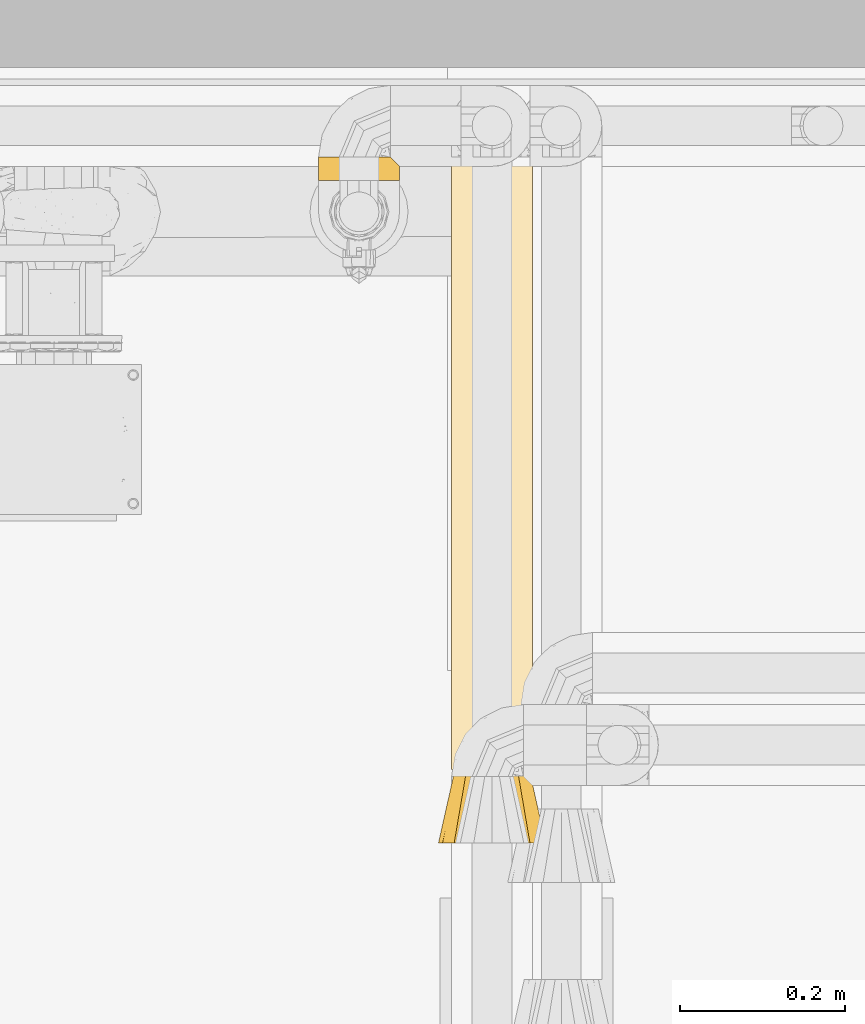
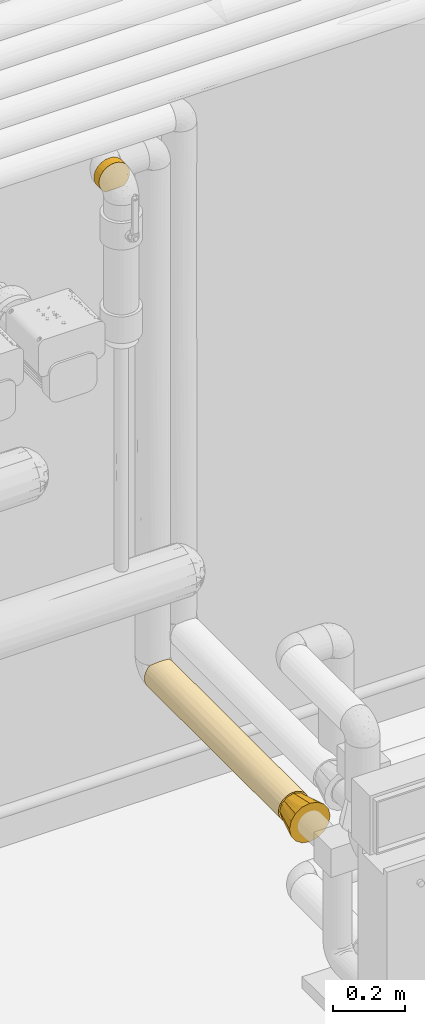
# One storey, part 27 of 94: 3 coverings.
"""IFC2X3 building model written with IfcOpenShell, lengths in millimetres."""

from ifc_helpers import new_model, entity, si_unit, converted_unit, derived_unit, direction, frame, origin, place, context, subcontext, project, spatial, faceted_brep, material, element, save


model = new_model("IFC2X3")

# Units and contexts
model_context = context("Model", 3, precision=0.01, world=origin(), true_north=direction((6.123031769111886e-17, 1.0)))
body_context = subcontext(model_context, "Body", "Model", "MODEL_VIEW")
ifc_project = project(units=[si_unit("LENGTHUNIT", "METRE", prefix="MILLI"), si_unit("AREAUNIT", "SQUARE_METRE"), si_unit("VOLUMEUNIT", "CUBIC_METRE"), converted_unit("PLANEANGLEUNIT", "DEGREE", entity("IfcRatioMeasure", 0.017453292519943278), si_unit("PLANEANGLEUNIT", "RADIAN"), dimensions=[0, 0, 0, 0, 0, 0, 0]), si_unit("MASSUNIT", "GRAM", prefix="KILO"), derived_unit("MASSDENSITYUNIT", [(si_unit("MASSUNIT", "GRAM", prefix="KILO"), 1), (si_unit("LENGTHUNIT", "METRE"), -3)]), derived_unit("IONCONCENTRATIONUNIT", [(si_unit("MASSUNIT", "GRAM", prefix="KILO"), 1), (si_unit("LENGTHUNIT", "METRE"), -3)]), derived_unit("MOMENTOFINERTIAUNIT", [(si_unit("LENGTHUNIT", "METRE"), 4)]), si_unit("TIMEUNIT", "SECOND"), si_unit("FREQUENCYUNIT", "HERTZ"), si_unit("THERMODYNAMICTEMPERATUREUNIT", "DEGREE_CELSIUS"), derived_unit("THERMALTRANSMITTANCEUNIT", [(si_unit("MASSUNIT", "GRAM", prefix="KILO"), 1), (si_unit("THERMODYNAMICTEMPERATUREUNIT", "KELVIN"), -1), (si_unit("TIMEUNIT", "SECOND"), -3)]), derived_unit("THERMALCONDUCTANCEUNIT", [(si_unit("MASSUNIT", "GRAM", prefix="KILO"), 1), (si_unit("THERMODYNAMICTEMPERATUREUNIT", "KELVIN"), -1), (si_unit("TIMEUNIT", "SECOND"), -3), (si_unit("LENGTHUNIT", "METRE"), 1)]), derived_unit("VOLUMETRICFLOWRATEUNIT", [(si_unit("LENGTHUNIT", "METRE"), 3), (si_unit("TIMEUNIT", "SECOND"), -1)]), derived_unit("MASSFLOWRATEUNIT", [(si_unit("MASSUNIT", "GRAM", prefix="KILO"), 1), (si_unit("TIMEUNIT", "SECOND"), -1)]), derived_unit("ROTATIONALFREQUENCYUNIT", [(si_unit("TIMEUNIT", "SECOND"), -1)]), si_unit("ELECTRICCURRENTUNIT", "AMPERE"), si_unit("ELECTRICVOLTAGEUNIT", "VOLT"), si_unit("POWERUNIT", "WATT"), si_unit("FORCEUNIT", "NEWTON", prefix="KILO"), si_unit("ILLUMINANCEUNIT", "LUX"), si_unit("LUMINOUSFLUXUNIT", "LUMEN"), si_unit("LUMINOUSINTENSITYUNIT", "CANDELA"), derived_unit("USERDEFINED", [(si_unit("MASSUNIT", "GRAM", prefix="KILO"), -1), (si_unit("LENGTHUNIT", "METRE"), -2), (si_unit("TIMEUNIT", "SECOND"), 3), (si_unit("LUMINOUSFLUXUNIT", "LUMEN"), 1)]), derived_unit("USERDEFINED", [(si_unit("MASSUNIT", "GRAM", prefix="KILO"), 1), (si_unit("TIMEUNIT", "SECOND"), -3), (si_unit("LENGTHUNIT", "METRE"), 3), (si_unit("ELECTRICCURRENTUNIT", "AMPERE"), -2)]), derived_unit("SOUNDPOWERUNIT", [(si_unit("MASSUNIT", "GRAM", prefix="KILO"), 1), (si_unit("TIMEUNIT", "SECOND"), -3), (si_unit("LENGTHUNIT", "METRE"), 2)]), derived_unit("SOUNDPRESSUREUNIT", [(si_unit("MASSUNIT", "GRAM", prefix="KILO"), 1), (si_unit("LENGTHUNIT", "METRE"), -1), (si_unit("TIMEUNIT", "SECOND"), -2)]), derived_unit("LINEARVELOCITYUNIT", [(si_unit("LENGTHUNIT", "METRE"), 1), (si_unit("TIMEUNIT", "SECOND"), -1)]), si_unit("PRESSUREUNIT", "PASCAL"), derived_unit("USERDEFINED", [(si_unit("MASSUNIT", "GRAM", prefix="KILO"), 1), (si_unit("LENGTHUNIT", "METRE"), -2), (si_unit("TIMEUNIT", "SECOND"), -2)]), derived_unit("LINEARFORCEUNIT", [(si_unit("MASSUNIT", "GRAM", prefix="KILO"), 1), (si_unit("TIMEUNIT", "SECOND"), -2)]), derived_unit("PLANARFORCEUNIT", [(si_unit("MASSUNIT", "GRAM", prefix="KILO"), 1), (si_unit("LENGTHUNIT", "METRE"), -1), (si_unit("TIMEUNIT", "SECOND"), -2)]), derived_unit("SPECIFICHEATCAPACITYUNIT", [(si_unit("THERMODYNAMICTEMPERATUREUNIT", "KELVIN"), -1), (si_unit("LENGTHUNIT", "METRE"), 2), (si_unit("TIMEUNIT", "SECOND"), -2)]), derived_unit("HEATINGVALUEUNIT", [(si_unit("LENGTHUNIT", "METRE"), 2), (si_unit("TIMEUNIT", "SECOND"), -2)]), derived_unit("VAPORPERMEABILITYUNIT", [(si_unit("LENGTHUNIT", "METRE"), -1), (si_unit("TIMEUNIT", "SECOND"), 1)]), derived_unit("DYNAMICVISCOSITYUNIT", [(si_unit("MASSUNIT", "GRAM", prefix="KILO"), 1), (si_unit("TIMEUNIT", "SECOND"), -1), (si_unit("LENGTHUNIT", "METRE"), -1)]), derived_unit("THERMALEXPANSIONCOEFFICIENTUNIT", [(si_unit("THERMODYNAMICTEMPERATUREUNIT", "KELVIN"), -1)]), derived_unit("MODULUSOFELASTICITYUNIT", [(si_unit("MASSUNIT", "GRAM", prefix="KILO"), 1), (si_unit("LENGTHUNIT", "METRE"), -1), (si_unit("TIMEUNIT", "SECOND"), -2)]), derived_unit("ISOTHERMALMOISTURECAPACITYUNIT", [(si_unit("LENGTHUNIT", "METRE"), 3), (si_unit("MASSUNIT", "GRAM", prefix="KILO"), -1)]), derived_unit("MOISTUREDIFFUSIVITYUNIT", [(si_unit("TIMEUNIT", "SECOND"), -1), (si_unit("LENGTHUNIT", "METRE"), 2)])], contexts=[model_context])

# Site, building, storey
site_placement = place(None, origin())
site = spatial("IfcSite", under=ifc_project, at=site_placement, Name="Default", CompositionType="ELEMENT")
building_placement = place(site_placement, origin())
building = spatial("IfcBuilding", under=site, at=building_placement, CompositionType="ELEMENT")
storey_placement = place(building_placement, origin())
storey = spatial("IfcBuildingStorey", under=building, at=storey_placement, Name="Niveau 0", CompositionType="ELEMENT", Elevation=0.0)

# Coverings
ifc_material = material(Name="Isolation - Laine minérale")
covering_1_placement = place(storey_placement, frame((-7222.871137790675, 9958.875273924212, 2300.725272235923)))
element("IfcCovering", 1, at=covering_1_placement, inside=storey, material=ifc_material, Name="Isolation des canalisations:Laine minérale", ObjectType="Isolation des canalisations:Laine minérale", PredefinedType="INSULATION", context=body_context, shape_type="Brep", body=[
    faceted_brep([(6.323164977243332, 1.595272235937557, -71.75405657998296), (12.012544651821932, 1.5952722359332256, -80.97558831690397), (19.584352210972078, 1.5952722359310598, -88.72527223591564), (81.86619226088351, 1.5952722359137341, -88.72527223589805), (89.43799982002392, 1.5952722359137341, -80.9755883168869), (95.12737949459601, 1.5952722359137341, -71.75405657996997), (98.65694811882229, 1.5952722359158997, -61.51004608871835), (99.85527223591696, 1.5952722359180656, -50.72527223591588), (98.18120808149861, 1.595272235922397, -38.00949255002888), (93.2731003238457, 1.5952722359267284, -26.16027223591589), (85.46542839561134, 1.5952722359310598, -15.985116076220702), (75.29027223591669, 1.5952722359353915, -8.177444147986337), (63.4410519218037, 1.595272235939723, -3.2693363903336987), (50.72527223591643, 1.5952722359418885, -1.595272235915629), (38.00949255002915, 1.5952722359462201, -3.2693363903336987), (26.160272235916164, 1.5952722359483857, -8.177444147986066), (15.985116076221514, 1.5952722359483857, -15.98511607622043), (8.17744414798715, 1.5952722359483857, -26.16027223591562), (3.26933639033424, 1.5952722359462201, -38.00949255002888), (1.5952722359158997, 1.5952722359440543, -50.72527223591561), (2.793596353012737, 1.5952722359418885, -61.51004608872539), (61.510046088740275, 29.970350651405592, -98.65694811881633), (50.725272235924, 29.970350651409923, -99.85527223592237), (38.00949255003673, 29.97035065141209, -98.1812080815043), (26.160272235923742, 29.97035065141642, -93.27310032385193), (15.985116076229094, 29.970350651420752, -85.46542839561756), (8.177444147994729, 29.970350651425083, -75.29027223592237), (3.26933639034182, 29.970350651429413, -63.44105192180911), (1.5952722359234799, 29.970350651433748, -50.72527223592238), (3.26933639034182, 29.97035065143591, -38.00949255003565), (8.177444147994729, 29.97035065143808, -26.16027223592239), (15.985116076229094, 29.97035065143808, -15.985116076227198), (26.160272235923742, 29.97035065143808, -8.177444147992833), (38.00949255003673, 29.97035065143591, -3.2693363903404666), (50.725272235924, 29.97035065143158, -1.595272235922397), (61.51004608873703, 29.970350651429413, -2.7935963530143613), (71.75405657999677, 29.970350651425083, -6.323164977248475), (80.97558831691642, 29.97035065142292, -12.012544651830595), (88.72527223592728, 29.970350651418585, -19.58435221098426), (88.7252722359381, 29.970350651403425, -81.8661922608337), (80.97558831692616, 29.970350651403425, -89.43799981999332), (71.75405658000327, 29.970350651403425, -95.1273794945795), (34.19020495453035, 9.859172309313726, -96.98917230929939), (42.33445912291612, 12.003444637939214, -99.13344463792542), (50.725272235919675, 12.725272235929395, -99.85527223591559), (26.531823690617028, 6.3554633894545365, -93.48546338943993), (59.116085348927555, 12.003444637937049, -99.13344463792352), (67.26033951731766, 9.85917230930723, -96.98917230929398), (74.91872078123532, 6.355463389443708, -93.4854633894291), (93.48546338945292, 25.21015949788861, -74.91872078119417), (96.98917230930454, 21.70645057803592, -67.26033951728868), (99.13344463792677, 19.562178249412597, -59.11608534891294), (99.85527223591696, 18.840350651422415, -50.725272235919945), (99.13344463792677, 19.562178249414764, -42.33445912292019), (96.98917230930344, 21.706450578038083, -34.19020495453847), (93.4854633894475, 25.210159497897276, -26.531823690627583)], [[[0, 1, 2, 3, 4, 5, 6, 7, 8, 9, 10, 11, 12, 13, 14, 15, 16, 17, 18, 19, 20]], [[21, 22, 23, 24, 25, 26, 27, 28, 29, 30, 31, 32, 33, 34, 35, 36, 37, 38, 39, 40, 41]], [[20, 28, 27]], [[27, 26, 0]], [[25, 1, 26]], [[19, 28, 20]], [[0, 20, 27]], [[1, 0, 26]], [[25, 2, 1]], [[42, 24, 23]], [[23, 22, 43]], [[44, 43, 22]], [[2, 25, 45]], [[43, 42, 23]], [[45, 24, 42]], [[45, 25, 24]], [[46, 22, 21]], [[21, 41, 47]], [[40, 48, 41]], [[46, 44, 22]], [[48, 47, 41]], [[3, 48, 40]], [[46, 21, 47]], [[40, 39, 3]], [[39, 49, 4]], [[50, 51, 6]], [[49, 50, 5]], [[4, 49, 5]], [[51, 7, 6]], [[6, 5, 50]], [[7, 51, 52]], [[39, 4, 3]], [[53, 54, 8]], [[9, 55, 10]], [[54, 55, 9]], [[52, 53, 7]], [[7, 53, 8]], [[54, 9, 8]], [[55, 38, 10]], [[11, 37, 36]], [[36, 35, 12]], [[34, 13, 35]], [[10, 37, 11]], [[12, 11, 36]], [[13, 12, 35]], [[37, 10, 38]], [[13, 34, 33, 14]], [[14, 33, 32, 15]], [[15, 32, 31, 16]], [[17, 30, 29, 18]], [[18, 29, 28, 19]], [[16, 31, 30, 17]], [[45, 42, 43, 44, 46, 47, 48, 3, 2]], [[38, 55, 54, 53, 52, 51, 50, 49, 39]]]),
])
covering_2_placement = place(storey_placement, frame((-7061.465954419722, 9245.870419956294, 549.7252722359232)))
element("IfcCovering", 2, at=covering_2_placement, inside=storey, material=ifc_material, Name="Isolation des canalisations:Laine minérale", ObjectType="Isolation des canalisations:Laine minérale", PredefinedType="INSULATION", context=body_context, shape_type="Brep", body=[
    faceted_brep([(38.009492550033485, 0.0, -98.18120808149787), (50.725272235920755, 0.0, -99.85527223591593), (63.44105192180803, 0.0, -98.18120808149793), (75.29027223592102, 0.0, -93.2731003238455), (85.46542839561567, 0.0, -85.46542839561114), (93.27310032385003, 0.0, -75.29027223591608), (98.18120808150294, 0.0, -63.44105192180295), (99.85527223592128, 0.0, -50.72527223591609), (98.18120808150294, 0.0, -38.009492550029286), (93.27310032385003, 0.0, -26.160272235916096), (85.46542839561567, 0.0, -15.985116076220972), (75.29027223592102, 0.0, -8.177444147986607), (63.44105192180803, 0.0, -3.269336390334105), (50.725272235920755, 0.0, -1.5952722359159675), (38.009492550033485, 0.0, -3.269336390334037), (26.160272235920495, 0.0, -8.177444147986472), (15.985116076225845, 0.0, -15.985116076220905), (8.17744414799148, 0.0, -26.16027223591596), (3.2693363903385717, 0.0, -38.00949255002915), (1.5952722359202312, 0.0, -50.72527223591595), (3.2693363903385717, 0.0, -63.44105192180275), (8.17744414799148, 0.0, -75.29027223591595), (15.985116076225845, 0.0, -85.465428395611), (26.160272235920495, 0.0, -93.27310032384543), (50.72527223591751, 742.9752046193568, -99.85527223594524), (38.00949255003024, 742.9752046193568, -98.18120808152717), (26.160272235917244, 742.9752046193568, -93.27310032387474), (15.985116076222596, 742.9752046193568, -85.4654283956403), (8.177444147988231, 742.9752046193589, -75.29027223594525), (3.269336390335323, 742.9752046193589, -63.441051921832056), (1.5952722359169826, 742.9752046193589, -50.725272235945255), (2.793596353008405, 742.9752046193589, -39.94049838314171), (6.323164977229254, 742.9752046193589, -29.69648789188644), (12.012544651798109, 742.9752046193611, -20.474956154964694), (19.584352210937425, 742.9752046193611, -12.725272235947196), (81.86619226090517, 742.9752046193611, -12.725272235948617), (89.43799982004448, 742.9752046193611, -20.47495615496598), (95.12737949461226, 742.9752046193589, -29.696487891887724), (98.65694811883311, 742.9752046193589, -39.94049838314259), (99.85527223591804, 742.9752046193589, -50.72527223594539), (98.18120808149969, 742.9752046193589, -63.44105192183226), (93.27310032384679, 742.9752046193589, -75.29027223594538), (85.46542839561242, 742.9752046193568, -85.46542839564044), (75.29027223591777, 742.9752046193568, -93.2731003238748), (63.441051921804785, 742.9752046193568, -98.18120808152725), (11.747822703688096, 413.7337221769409, -80.63372134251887), (5.335070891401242, 371.48760552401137, -69.52650947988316), (2.539291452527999, 461.56628601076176, -60.31005997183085), (31.924035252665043, 371.48760272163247, -96.11547368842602), (1.5952722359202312, 253.48855035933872, -50.72527223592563), (1.5952722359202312, 371.48760230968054, -50.72527223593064), (20.816823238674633, 329.2414870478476, -89.70272185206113), (41.14048474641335, 281.4089228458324, -98.91125306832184), (50.72527223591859, 489.4864445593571, -99.85527223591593), (50.72527223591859, 371.4876023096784, -99.85527223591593), (59.19168663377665, 291.6573414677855, -99.12027949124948), (69.52650927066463, 329.241484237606, -96.11547366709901), (98.91125306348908, 281.40892274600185, -60.31005974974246), (96.11547367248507, 371.4876023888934, -69.52650925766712), (80.63372124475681, 371.4876022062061, -89.70272184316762), (89.70272184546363, 329.2414838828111, -80.6337212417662), (99.85527223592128, 371.48760230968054, -50.725272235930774), (99.85527223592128, 253.48854960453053, -50.725272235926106), (97.17542632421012, 381.6868482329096, -34.72089517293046), (89.70272184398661, 347.6794287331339, -20.816823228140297), (74.91872078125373, 738.2150134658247, -7.9650810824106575), (63.33621661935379, 377.22952164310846, -3.2413698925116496), (78.69449483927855, 371.2219765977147, -10.333695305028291), (67.26033951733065, 734.7113045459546, -4.461372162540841), (59.11608534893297, 732.5670322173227, -2.3170998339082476), (50.72527223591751, 731.8452046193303, -1.5952722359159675), (50.725272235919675, 242.35855012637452, -1.5952722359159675), (22.75604962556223, 371.22197656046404, -10.333695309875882), (38.114327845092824, 377.22952164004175, -3.2413698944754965), (26.531823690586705, 738.2150134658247, -7.9650810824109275), (42.334459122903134, 732.5670322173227, -2.3170998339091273), (34.190204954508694, 734.7113045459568, -4.461372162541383), (11.747822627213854, 347.67942876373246, -20.816823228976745), (4.275118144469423, 381.6868482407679, -34.720895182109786)], [[[0, 1, 2, 3, 4, 5, 6, 7, 8, 9, 10, 11, 12, 13, 14, 15, 16, 17, 18, 19, 20, 21, 22, 23]], [[24, 25, 26, 27, 28, 29, 30, 31, 32, 33, 34, 35, 36, 37, 38, 39, 40, 41, 42, 43, 44]], [[28, 27, 45]], [[20, 46, 21]], [[29, 28, 46]], [[47, 29, 46]], [[23, 48, 0]], [[20, 19, 49, 50]], [[21, 45, 22]], [[29, 47, 30]], [[46, 45, 21]], [[27, 26, 51]], [[45, 46, 28]], [[52, 1, 0]], [[48, 26, 25]], [[30, 47, 50]], [[20, 47, 46]], [[25, 24, 53, 54]], [[51, 48, 23]], [[51, 26, 48]], [[22, 45, 51]], [[22, 51, 23]], [[48, 52, 0]], [[54, 52, 25]], [[51, 45, 27]], [[25, 52, 48]], [[1, 52, 54]], [[50, 47, 20]], [[55, 44, 56]], [[40, 57, 58]], [[44, 55, 53]], [[56, 59, 3]], [[59, 56, 43]], [[44, 53, 24]], [[42, 59, 43]], [[55, 1, 54, 53]], [[59, 4, 3]], [[3, 2, 56]], [[41, 58, 60]], [[57, 61, 62, 7]], [[58, 41, 40]], [[58, 5, 60]], [[42, 60, 59]], [[61, 40, 39]], [[4, 59, 60]], [[41, 60, 42]], [[55, 56, 2]], [[5, 4, 60]], [[58, 57, 6]], [[5, 58, 6]], [[43, 56, 44]], [[61, 57, 40]], [[1, 55, 2]], [[57, 7, 6]], [[62, 38, 63]], [[37, 36, 64]], [[64, 63, 37]], [[65, 66, 67]], [[38, 62, 61, 39]], [[63, 38, 37]], [[63, 9, 8]], [[64, 10, 9]], [[66, 12, 11]], [[67, 64, 35]], [[66, 65, 68]], [[67, 10, 64]], [[69, 66, 68]], [[11, 10, 67]], [[70, 71, 66]], [[66, 69, 70]], [[62, 63, 8]], [[66, 11, 67]], [[64, 36, 35]], [[71, 13, 12]], [[12, 66, 71]], [[63, 64, 9]], [[65, 67, 35]], [[7, 62, 8]], [[72, 15, 73]], [[16, 15, 72]], [[34, 72, 74]], [[73, 75, 76]], [[77, 34, 33]], [[72, 73, 74]], [[70, 73, 71]], [[71, 73, 14]], [[73, 70, 75]], [[73, 76, 74]], [[13, 71, 14]], [[73, 15, 14]], [[32, 78, 77]], [[32, 31, 78]], [[49, 19, 18]], [[31, 30, 50, 49]], [[16, 77, 17]], [[72, 77, 16]], [[17, 77, 78]], [[49, 78, 31]], [[17, 78, 18]], [[77, 33, 32]], [[34, 77, 72]], [[49, 18, 78]], [[74, 76, 75, 70, 69, 68, 65, 35, 34]]]),
])
covering_3_placement = place(storey_placement, frame((-7077.335954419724, 9156.870419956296, 432.4047277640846)))
element("IfcCovering", 3, at=covering_3_placement, inside=storey, material=ifc_material, Name="Isolation des canalisations:Laine minérale", ObjectType="Isolation des canalisations:Laine minérale", PredefinedType="INSULATION", context=body_context, shape_type="Brep", body=[
    faceted_brep([(44.09527223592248, 89.0, 105.56641540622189), (55.34527223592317, 89.0, 108.58084382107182), (66.59527223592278, 89.0, 111.5952722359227), (77.8452722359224, 89.0, 108.58084382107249), (89.09527223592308, 89.0, 105.56641540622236), (97.33084382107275, 89.0, 97.33084382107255), (105.56641540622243, 89.0, 89.0952722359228), (108.58084382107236, 89.0, 77.84527223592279), (111.5952722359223, 89.0, 66.59527223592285), (108.58084382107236, 89.0, 55.3452722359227), (105.56641540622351, 89.0, 44.09527223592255), (97.33084382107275, 89.0, 35.85970065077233), (89.09527223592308, 89.0, 27.624129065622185), (77.8452722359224, 89.0, 24.609700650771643), (66.59527223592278, 89.0, 21.595272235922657), (55.34527223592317, 89.0, 24.609700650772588), (44.09527223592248, 89.0, 27.624129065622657), (35.85970065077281, 89.0, 35.85970065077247), (27.62412906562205, 89.0, 44.09527223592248), (24.609700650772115, 89.0, 55.345272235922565), (21.595272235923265, 89.0, 66.59527223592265), (24.6097006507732, 89.0, 77.8452722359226), (27.624129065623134, 89.0, 89.09527223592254), (35.85970065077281, 89.0, 97.33084382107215), (6.543102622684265, 0.0, 91.4696953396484), (4.069187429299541, 0.0, 79.03248378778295), (1.5952722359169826, 0.0, 66.5952722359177), (4.069187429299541, 0.0, 54.158060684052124), (6.543102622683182, 0.0, 41.72084913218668), (13.588217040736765, 0.0, 31.177090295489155), (20.63333145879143, 0.0, 20.63333145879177), (31.1770902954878, 0.0, 13.588217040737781), (41.72084913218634, 0.0, 6.543102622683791), (54.158060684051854, 0.0, 4.069187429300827), (66.59527223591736, 0.0, 1.5952722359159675), (79.03248378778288, 0.0, 4.069187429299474), (91.46969533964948, 0.0, 6.543102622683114), (102.01345417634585, 0.0, 13.58821704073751), (112.55721301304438, 0.0, 20.633331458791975), (119.60232743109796, 0.0, 31.177090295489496), (126.64744184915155, 0.0, 41.72084913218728), (129.1213570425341, 0.0, 54.158060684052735), (131.59527223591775, 0.0, 66.59527223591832), (129.12135704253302, 0.0, 79.03248378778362), (126.64744184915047, 0.0, 91.46969533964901), (119.6023274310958, 0.0, 102.01345417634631), (112.55721301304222, 0.0, 112.55721301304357), (102.01345417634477, 0.0, 119.60232743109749), (91.46969533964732, 0.0, 126.64744184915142), (79.03248378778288, 0.0, 129.12135704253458), (66.59527223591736, 0.0, 131.59527223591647), (54.158060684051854, 0.0, 129.12135704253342), (41.72084913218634, 0.0, 126.64744184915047), (31.1770902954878, 0.0, 119.60232743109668), (20.63333145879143, 0.0, 112.55721301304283), (13.588217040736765, 0.0, 102.01345417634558)], [[[0, 1, 2, 3, 4, 5, 6, 7, 8, 9, 10, 11, 12, 13, 14, 15, 16, 17, 18, 19, 20, 21, 22, 23]], [[24, 25, 26, 27, 28, 29, 30, 31, 32, 33, 34, 35, 36, 37, 38, 39, 40, 41, 42, 43, 44, 45, 46, 47, 48, 49, 50, 51, 52, 53, 54, 55]], [[35, 34, 14]], [[10, 40, 39]], [[37, 36, 12]], [[37, 12, 11]], [[10, 39, 11]], [[37, 11, 38]], [[41, 40, 9]], [[14, 13, 35]], [[39, 38, 11]], [[8, 41, 9]], [[13, 12, 36]], [[41, 8, 42]], [[40, 10, 9]], [[13, 36, 35]], [[27, 26, 20]], [[16, 32, 31]], [[29, 28, 18]], [[29, 18, 17]], [[16, 31, 17]], [[29, 17, 30]], [[33, 32, 15]], [[20, 19, 27]], [[31, 30, 17]], [[14, 33, 15]], [[19, 18, 28]], [[33, 14, 34]], [[32, 16, 15]], [[19, 28, 27]], [[51, 50, 2]], [[22, 24, 55]], [[53, 52, 0]], [[53, 0, 23]], [[22, 55, 23]], [[53, 23, 54]], [[25, 24, 21]], [[2, 1, 51]], [[55, 54, 23]], [[20, 25, 21]], [[1, 0, 52]], [[25, 20, 26]], [[24, 22, 21]], [[1, 52, 51]], [[43, 42, 8]], [[4, 48, 47]], [[45, 44, 6]], [[45, 6, 5]], [[4, 47, 5]], [[45, 5, 46]], [[49, 48, 3]], [[8, 7, 43]], [[47, 46, 5]], [[2, 49, 3]], [[7, 6, 44]], [[49, 2, 50]], [[48, 4, 3]], [[7, 44, 43]]]),
])

save(model, "model.ifc")
